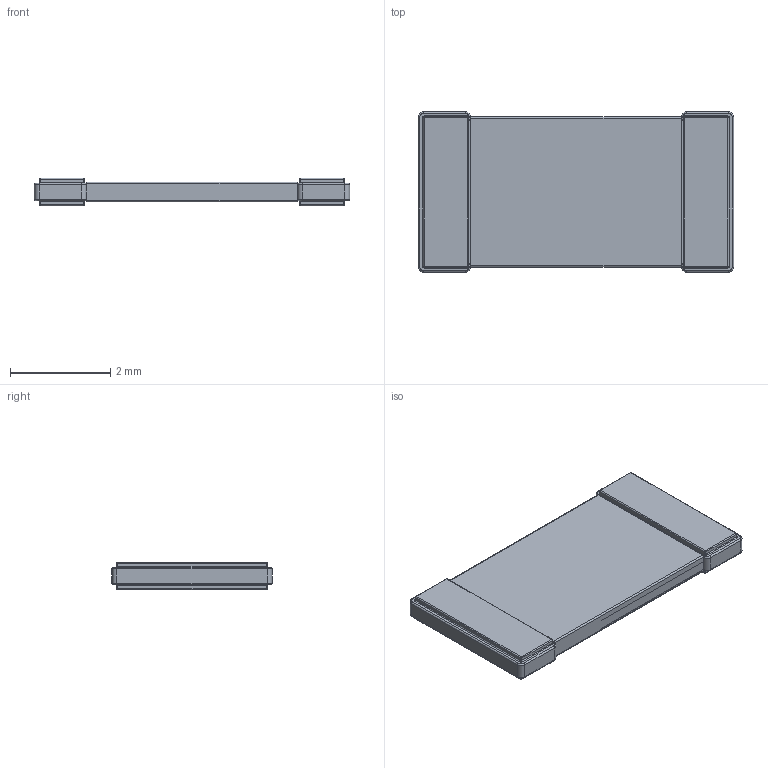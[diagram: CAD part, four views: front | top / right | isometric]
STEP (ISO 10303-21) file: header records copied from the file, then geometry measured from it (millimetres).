
FILE_DESCRIPTION(('STEP AP203'), '1');
FILE_NAME('櫻蠉錪', '', ('UNSPECIFIED'), ('UNSPECIFIED'), 'ASCON STEP Converter 1.6', 'ASCON Math Kernel', '');
FILE_SCHEMA(('CONFIG_CONTROL_DESIGN'));
Length unit declared in the file: millimetre
Bounding box: 6.3 x 3.2 x 0.55 mm (x, y, z)
Volume: 8.2 mm3; surface area: 77.1 mm2
Topology: 1 solids, 1 shells, 190 faces, 451 edges, 250 vertices
Faces by surface type: cylinder 86, plane 48, torus 40, sphere 16
Entity records: 6959 total; most frequent: DIRECTION 1016, CARTESIAN_POINT 1004, ORIENTED_EDGE 870, EDGE_CURVE 435, AXIS2_PLACEMENT_3D 405, VERTEX_POINT 250, CIRCLE 214, LINE 206
